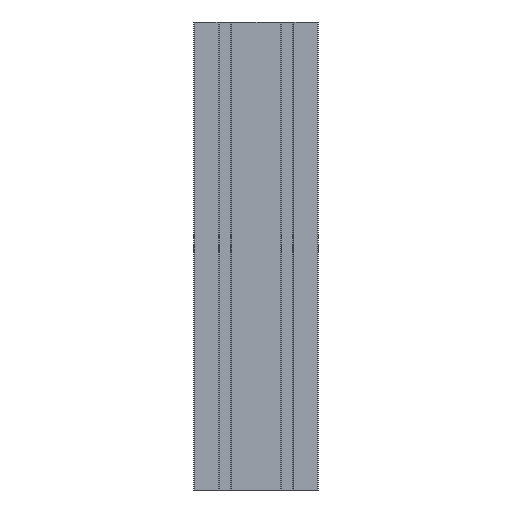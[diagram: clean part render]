
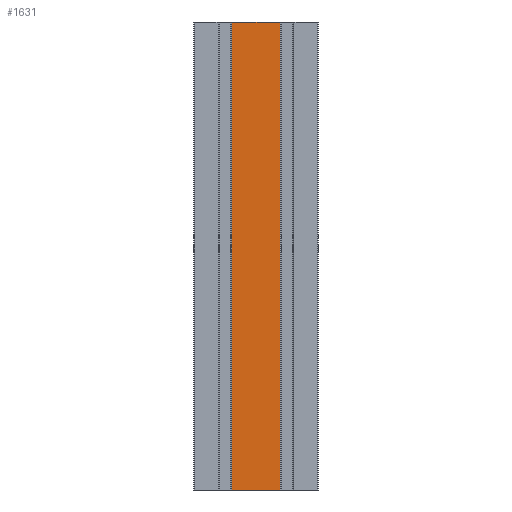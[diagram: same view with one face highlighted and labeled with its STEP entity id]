
A CAD part, front view. The second image highlights one B-rep face of the part: STEP entity #1631.
In plain terms, the highlighted planar face has unit normal (0, -1, 0).
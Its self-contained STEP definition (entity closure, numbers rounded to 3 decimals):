
#131 = CARTESIAN_POINT ( 'NONE',  ( -15.65, -10., 150. ) ) ;
#464 = CARTESIAN_POINT ( 'NONE',  ( 15.65, -10., 150. ) ) ;
#606 = VERTEX_POINT ( 'NONE', #1738 ) ;
#767 = EDGE_CURVE ( 'NONE', #1609, #3858, #4862, .T. ) ;
#1050 = LINE ( 'NONE', #464, #4579 ) ;
#1242 = VERTEX_POINT ( 'NONE', #3696 ) ;
#1606 = DIRECTION ( 'NONE',  ( 0., 0., 1. ) ) ;
#1609 = VERTEX_POINT ( 'NONE', #131 ) ;
#1631 = ADVANCED_FACE ( 'NONE', ( #1788 ), #3366, .F. ) ;
#1702 = AXIS2_PLACEMENT_3D ( 'NONE', #2800, #2209, #1606 ) ;
#1738 = CARTESIAN_POINT ( 'NONE',  ( 15.65, -10., -150. ) ) ;
#1788 = FACE_OUTER_BOUND ( 'NONE', #5678, .T. ) ;
#1993 = ORIENTED_EDGE ( 'NONE', *, *, #4623, .T. ) ;
#2089 = EDGE_CURVE ( 'NONE', #3858, #606, #1050, .T. ) ;
#2209 = DIRECTION ( 'NONE',  ( 0., 1., 0. ) ) ;
#2585 = DIRECTION ( 'NONE',  ( 0., 0., -1. ) ) ;
#2795 = CARTESIAN_POINT ( 'NONE',  ( 15.65, -10., 150. ) ) ;
#2800 = CARTESIAN_POINT ( 'NONE',  ( 0., -10., 150. ) ) ;
#2950 = VECTOR ( 'NONE', #3147, 1000. ) ;
#3147 = DIRECTION ( 'NONE',  ( 1., 0., 0. ) ) ;
#3178 = CARTESIAN_POINT ( 'NONE',  ( -15.65, -10., 150. ) ) ;
#3366 = PLANE ( 'NONE',  #1702 ) ;
#3696 = CARTESIAN_POINT ( 'NONE',  ( -15.65, -10., -150. ) ) ;
#3708 = DIRECTION ( 'NONE',  ( 1., 0., 0. ) ) ;
#3724 = CARTESIAN_POINT ( 'NONE',  ( 0., -10., -150. ) ) ;
#3749 = LINE ( 'NONE', #3178, #5560 ) ;
#3858 = VERTEX_POINT ( 'NONE', #2795 ) ;
#4095 = ORIENTED_EDGE ( 'NONE', *, *, #2089, .F. ) ;
#4277 = CARTESIAN_POINT ( 'NONE',  ( -15.65, -10., 150. ) ) ;
#4286 = ORIENTED_EDGE ( 'NONE', *, *, #767, .F. ) ;
#4299 = LINE ( 'NONE', #3724, #2950 ) ;
#4579 = VECTOR ( 'NONE', #5562, 1000. ) ;
#4623 = EDGE_CURVE ( 'NONE', #1242, #606, #4299, .T. ) ;
#4697 = EDGE_CURVE ( 'NONE', #1609, #1242, #3749, .T. ) ;
#4779 = VECTOR ( 'NONE', #3708, 1000. ) ;
#4862 = LINE ( 'NONE', #4277, #4779 ) ;
#4891 = ORIENTED_EDGE ( 'NONE', *, *, #4697, .T. ) ;
#5560 = VECTOR ( 'NONE', #2585, 1000. ) ;
#5562 = DIRECTION ( 'NONE',  ( 0., 0., -1. ) ) ;
#5678 = EDGE_LOOP ( 'NONE', ( #1993, #4095, #4286, #4891 ) ) ;
